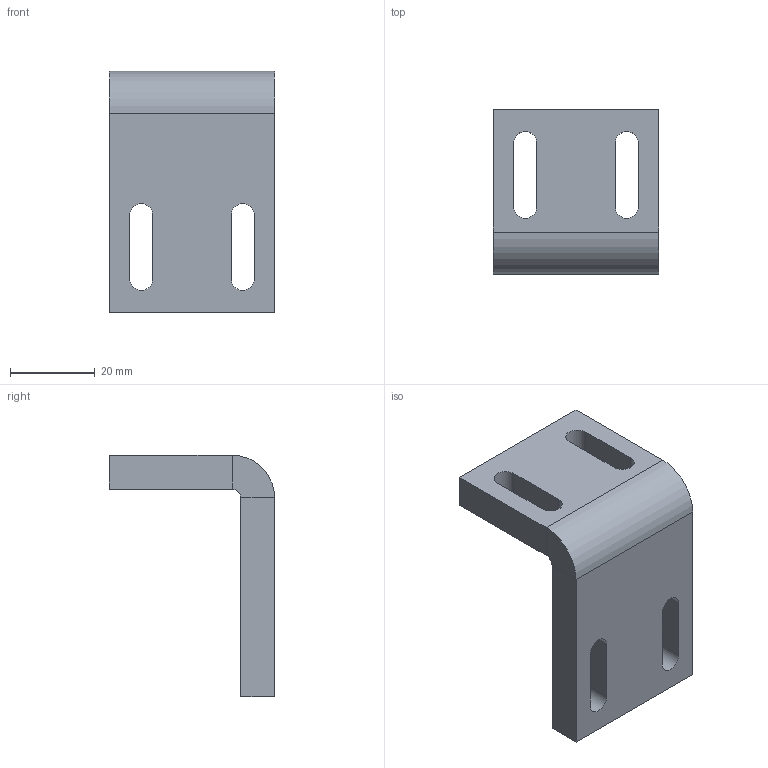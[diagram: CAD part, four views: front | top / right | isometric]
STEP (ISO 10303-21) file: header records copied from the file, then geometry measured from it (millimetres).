
FILE_DESCRIPTION((''),'2;1');
FILE_NAME('2024273','2018-12-19T',('rink'),(''),'PRO/ENGINEER BY PARAMETRIC TECHNOLOGY CORPORATION, 2015110','PRO/ENGINEER BY PARAMETRIC TECHNOLOGY CORPORATION, 2015110','');
FILE_SCHEMA(('AUTOMOTIVE_DESIGN { 1 0 10303 214 1 1 1 1 }'));
Length unit declared in the file: millimetre
Products named in the file (1): 2024273
Bounding box: 39 x 39 x 57 mm (x, y, z)
Volume: 23252.3 mm3; surface area: 9316.8 mm2
Topology: 1 solids, 1 shells, 30 faces, 86 edges, 68 vertices
Faces by surface type: plane 20, cylinder 10
Entity records: 1650 total; most frequent: DIRECTION 168, CARTESIAN_POINT 167, ORIENTED_EDGE 152, PRESENTATION_STYLE_ASSIGNMENT 87, STYLED_ITEM 87, CURVE_STYLE 86, EDGE_CURVE 76, VECTOR 66
